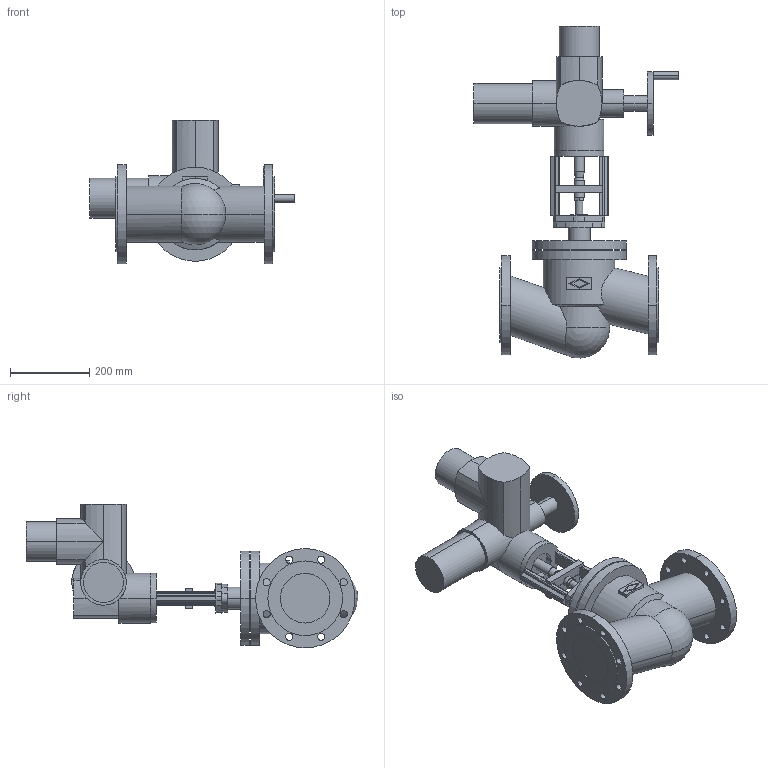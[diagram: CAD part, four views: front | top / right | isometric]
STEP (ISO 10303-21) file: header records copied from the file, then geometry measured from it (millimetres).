
FILE_DESCRIPTION(('OneSpaceDesigner STEP Export'),'2;1');
FILE_NAME('c000003088.stp','2007-01-09T10:43:20',(''),(''),'OneSpace Designer STEP processor for AP214 (Solid Model)','OneSpace Designer 14.00B 27-May-2006 (C) CoCreate Software GmbH','');
FILE_SCHEMA(('AUTOMOTIVE_DESIGN { 1 0 10303 214 1 1 1 1 }'));
Length unit declared in the file: millimetre
Products named in the file (3): 1; 2; 3
Bounding box: 514 x 835.9 x 362 mm (x, y, z)
Volume: 21303217.2 mm3; surface area: 1045115.8 mm2
Topology: 3 solids, 3 shells, 280 faces, 713 edges, 452 vertices
Faces by surface type: cylinder 144, plane 128, cone 6, sphere 2
Entity records: 8277 total; most frequent: CARTESIAN_POINT 1908, ORIENTED_EDGE 1422, DIRECTION 1177, EDGE_CURVE 711, VERTEX_POINT 452, AXIS2_PLACEMENT_3D 402, VECTOR 373, LINE 373
